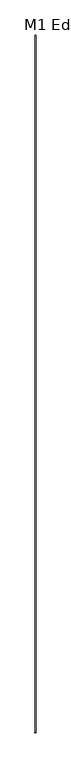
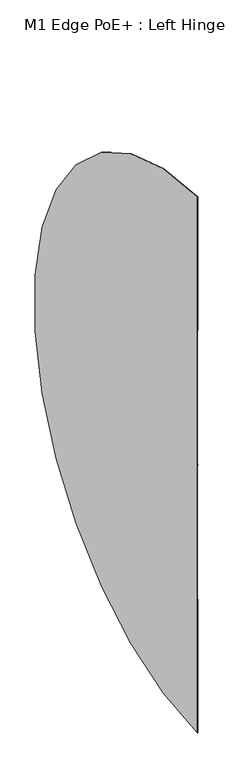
"""IFC4 building model written with IfcOpenShell, lengths in millimetres: proxy geometry, M1 Edge PoE+ : Left Hinge."""

from ifc_helpers import new_model, si_unit, frame, origin, place, context, project, spatial, polyline, circle_curve, outline, extrude, source, transform, mapped, element, save
from ifc_brep_helpers import plane_surface, cylinder_surface, revolved_surface, advanced_brep


def m1_edge_poe_left_hinge_cab26d9b(model_context):
    return source(origin(), model_context, "Body", "SolidModel", [
        extrude(outline(polyline([(-82.55, 150.0), (-79.375, 150.0), (-79.375, 0.0), (-82.55, 0.0), (-82.55, 150.0)])), frame((0.0, 0.0, 2860.4272325), z_axis=(0.0, 0.0, 1.0), x_axis=(1.0, 0.0, 0.0)), (0.0, 0.0, 1.0), 100.0125),
        extrude(outline(polyline([(-82.55, 3.175), (-82.55, 0.0), (-232.55, 0.0), (-232.55, 3.175), (-82.55, 3.175)])), frame((0.0, 0.0, 2860.4272325), z_axis=(0.0, 0.0, 1.0), x_axis=(1.0, 0.0, 0.0)), (0.0, 0.0, 1.0), 100.0125),
        advanced_brep(
        [(-152.5984375, 28.675, 2910.4334826), (-152.5984375, 117.675, 2910.4334826), (-216.65, 117.675, 2910.4334826), (-216.65, 28.675, 2910.4334826), (-152.5984375, 25.175, 2910.4334826), (-152.5984375, 121.175, 2910.4334826), (-142.5773438, 25.175, 2910.4334826), (-142.5773438, 121.175, 2910.4334826), (-142.5773438, 15.675, 2910.4334826), (-142.5773438, 130.675, 2910.4334826), (-82.55, 15.675, 2910.4334826), (-82.55, 130.675, 2910.4334826), (-82.55, 73.175, 2910.4334826), (-216.65, 73.175, 2910.4334826)],
        [
            (0, 1, circle_curve(frame((-152.5984375, 73.175, 2910.4334826), z_axis=(-1.0, 0.0, 0.0), x_axis=(0.0, 1.0, 0.0)), 44.5)),
            (1, 2),
            (2, 3, circle_curve(frame((-216.65, 73.175, 2910.4334826), z_axis=(1.0, 0.0, 0.0), x_axis=(0.0, 1.0, 0.0)), 44.5)),
            (3, 0),
            (1, 0, circle_curve(frame((-152.5984375, 73.175, 2910.4334826), z_axis=(-1.0, 0.0, 0.0), x_axis=(0.0, 1.0, 0.0)), 44.5)),
            (3, 2, circle_curve(frame((-216.65, 73.175, 2910.4334826), z_axis=(1.0, 0.0, 0.0), x_axis=(0.0, 1.0, 0.0)), 44.5)),
            (4, 5, circle_curve(frame((-152.5984375, 73.175, 2910.4334826), z_axis=(-1.0, 0.0, 0.0), x_axis=(0.0, 1.0, 0.0)), 48.0)),
            (5, 1),
            (0, 4),
            (5, 4, circle_curve(frame((-152.5984375, 73.175, 2910.4334826), z_axis=(-1.0, 0.0, 0.0), x_axis=(0.0, 1.0, 0.0)), 48.0)),
            (6, 7, circle_curve(frame((-142.5773438, 73.175, 2910.4334826), z_axis=(-1.0, 0.0, 0.0), x_axis=(0.0, 1.0, 0.0)), 48.0)),
            (7, 5),
            (4, 6),
            (7, 6, circle_curve(frame((-142.5773438, 73.175, 2910.4334826), z_axis=(-1.0, 0.0, 0.0), x_axis=(0.0, 1.0, 0.0)), 48.0)),
            (8, 9, circle_curve(frame((-142.5773438, 73.175, 2910.4334826), z_axis=(-1.0, 0.0, 0.0), x_axis=(0.0, 1.0, 0.0)), 57.5)),
            (9, 7),
            (6, 8),
            (9, 8, circle_curve(frame((-142.5773438, 73.175, 2910.4334826), z_axis=(-1.0, 0.0, 0.0), x_axis=(0.0, 1.0, 0.0)), 57.5)),
            (10, 11, circle_curve(frame((-82.55, 73.175, 2910.4334826), z_axis=(-1.0, 0.0, 0.0), x_axis=(0.0, 1.0, 0.0)), 57.5)),
            (11, 9),
            (8, 10),
            (11, 10, circle_curve(frame((-82.55, 73.175, 2910.4334826), z_axis=(-1.0, 0.0, 0.0), x_axis=(0.0, 1.0, 0.0)), 57.5)),
            (12, 11),
            (10, 12),
            (2, 13),
            (13, 3),
        ],
        [
            cylinder_surface(frame((-484.5299573, 73.175, 2910.4334826), z_axis=(1.0, 0.0, 0.0), x_axis=(0.0, 1.0, 0.0)), 44.5),
            plane_surface(frame((-152.5984375, 73.175, 2910.4334826), z_axis=(-1.0, 0.0, 0.0), x_axis=(0.0, 1.0, 0.0))),
            cylinder_surface(frame((-484.5299573, 73.175, 2910.4334826), z_axis=(1.0, 0.0, 0.0), x_axis=(0.0, 1.0, 0.0)), 48.0),
            plane_surface(frame((-142.5773438, 73.175, 2910.4334826), z_axis=(-1.0, 0.0, 0.0), x_axis=(0.0, 1.0, 0.0))),
            cylinder_surface(frame((-484.5299573, 73.175, 2910.4334826), z_axis=(1.0, 0.0, 0.0), x_axis=(0.0, 1.0, 0.0)), 57.5),
            plane_surface(frame((-82.55, 73.175, 2910.4334826), z_axis=(1.0, 0.0, 0.0), x_axis=(0.0, 1.0, 0.0))),
            plane_surface(frame((-216.65, 73.175, 2910.4334826), z_axis=(-1.0, 0.0, 0.0), x_axis=(0.0, 1.0, 0.0))),
        ],
        [
            (0, [[1, 2, 3, 4]]),
            (0, [[5, -4, 6, -2]]),
            (1, [[7, 8, -1, 9]]),
            (1, [[10, -9, -5, -8]]),
            (2, [[11, 12, -7, 13]]),
            (2, [[14, -13, -10, -12]]),
            (3, [[15, 16, -11, 17]]),
            (3, [[18, -17, -14, -16]]),
            (4, [[19, 20, -15, 21]]),
            (4, [[22, -21, -18, -20]]),
            (5, [[23, -19, 24]]),
            (5, [[-24, -22, -23]]),
            (6, [[-3, 25, 26]]),
            (6, [[-6, -26, -25]]),
        ],
    ),
        advanced_brep(
        [(-181.1734375, 73.175, -67193.5665175), (-101.4577085, 73.175, -67193.5665175), (-181.1734375, 73.175, 2864.1354057), (-181.1734375, 73.175, 73014.4334825), (-181.1734375, 73.175, 2956.7315594), (-101.4577085, 73.175, 73014.4334825)],
        [
            (0, 1),
            (1, 2),
            (2, 0),
            (3, 4),
            (4, 5),
            (5, 3),
            (5, 1, circle_curve(frame((-101.4577085, 73.175, 2910.4334825), z_axis=(-1.0, 0.0, 0.0), x_axis=(0.0, 0.0, -1.0)), 70104.0)),
            (0, 3, circle_curve(frame((-181.1734375, 73.175, 2910.4334825), z_axis=(1.0, 0.0, 0.0), x_axis=(0.0, 0.0, -1.0)), 70104.0)),
            (4, 2, circle_curve(frame((-181.1734375, 73.175, 2910.4334825), z_axis=(-1.0, 0.0, 0.0), x_axis=(0.0, 0.0, -1.0)), 46.2980768)),
        ],
        [
            plane_surface(frame((-2524.9802318, 73.175, 2910.4334825), z_axis=(0.0, -1.0, 0.0), x_axis=(0.0, 0.0, -1.0))),
            plane_surface(frame((-2524.9802318, 73.175, 2910.4334825), z_axis=(0.0, -1.0, 0.0), x_axis=(0.0, 0.0, 1.0))),
            cylinder_surface(frame((-2524.9802318, 73.175, 2910.4334825), z_axis=(1.0, 0.0, 0.0), x_axis=(0.0, 0.0, -1.0)), 70104.0),
            revolved_surface(polyline([(-101.4577085, 73.175, -67193.5665175), (-181.1734375, 73.175, 2864.1354057)]), (-2524.9802318, 73.175, 2910.4334825), (1.0, 0.0, 0.0)),
            plane_surface(frame((-181.1734375, 73.175, 2910.4334825), z_axis=(-1.0, 0.0, 0.0), x_axis=(0.0, 0.0, -1.0))),
        ],
        [
            (0, [[1, 2, 3]]),
            (1, [[4, 5, 6]]),
            (2, [[7, -1, 8, -6]]),
            (3, [[9, -2, -7, -5]]),
            (4, [[-8, -3, -9, -4]]),
        ],
    ),
    ])


if __name__ == "__main__":
    model = new_model("IFC4")
    model_context = context("Model", 3, world=origin())
    ifc_project = project(units=[si_unit("LENGTHUNIT", "METRE", prefix="MILLI")], contexts=[model_context])
    site = spatial("IfcSite", under=ifc_project)
    building = spatial("IfcBuilding", under=site)
    placement = place(None, origin())
    m1_edge_poe_left_hinge_shape = m1_edge_poe_left_hinge_cab26d9b(model_context)
    element("IfcBuildingElementProxy", 1, Name="M1 Edge PoE+ : Left Hinge", ObjectType="M1 Edge PoE+ : Left Hinge", at=placement, inside=building, context=model_context, shape_type="MappedRepresentation", body=[
        mapped(m1_edge_poe_left_hinge_shape, transform((0.0, 0.0, 0.0), x_axis=(1.0, 0.0, 0.0), y_axis=(0.0, 1.0, 0.0), z_axis=(0.0, 0.0, 1.0))),
    ])
    save(model, "model.ifc")
